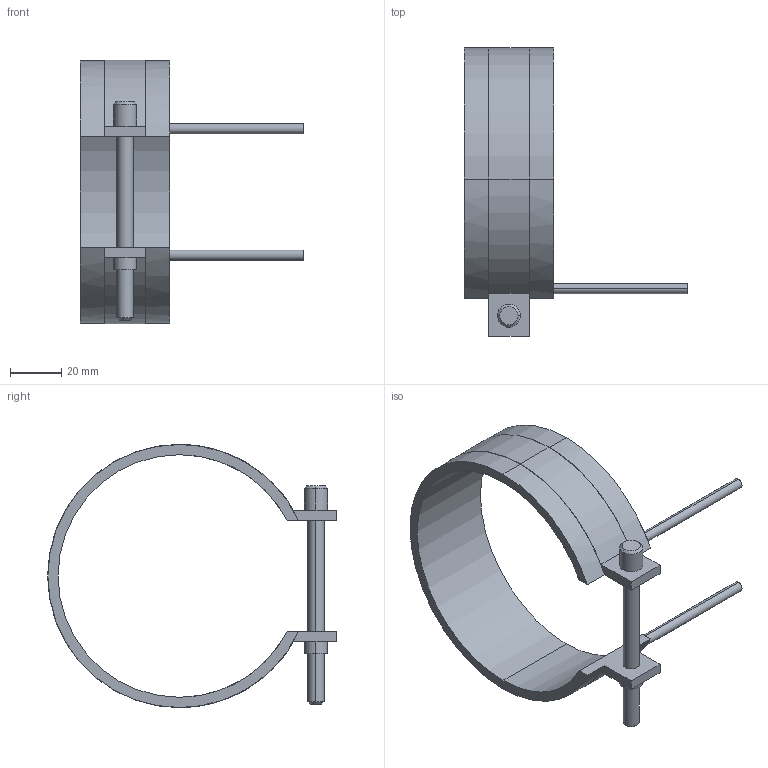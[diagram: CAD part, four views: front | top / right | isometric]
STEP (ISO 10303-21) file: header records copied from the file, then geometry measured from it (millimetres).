
FILE_DESCRIPTION(('CATIA V5 STEP Exchange'),'2;1');
FILE_NAME('C:\Users\Utente\Desktop\IO LAVORO\3D X SITO CF\X SITO\PLASTICA\RF2\14095035.stp','2021-04-06T16:05:08+00:00',('none'),('none'),'CATIA Version 5 Release 20 GA (IN-10)','CATIA V5 STEP AP203','none');
FILE_SCHEMA(('CONFIG_CONTROL_DESIGN'));
Length unit declared in the file: millimetre
Products named in the file (1): 14095035
Bounding box: 87.5 x 113.1 x 103.2 mm (x, y, z)
Volume: 43902.1 mm3; surface area: 25260.6 mm2
Topology: 1 solids, 1 shells, 45 faces, 116 edges, 76 vertices
Faces by surface type: cylinder 24, plane 17, cone 4
Entity records: 1406 total; most frequent: CARTESIAN_POINT 282, ORIENTED_EDGE 232, DIRECTION 195, EDGE_CURVE 116, AXIS2_PLACEMENT_3D 103, VERTEX_POINT 76, CIRCLE 61, VECTOR 52
